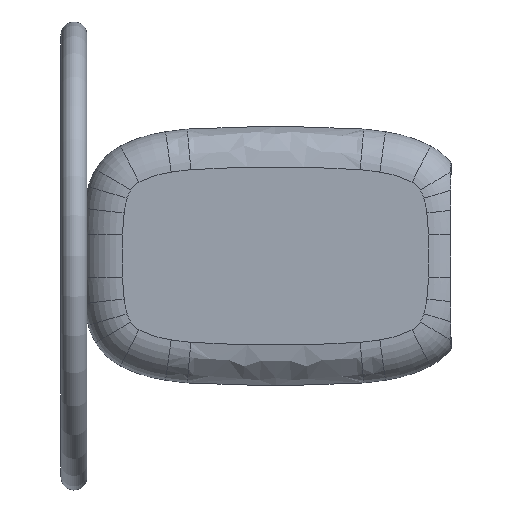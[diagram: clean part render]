
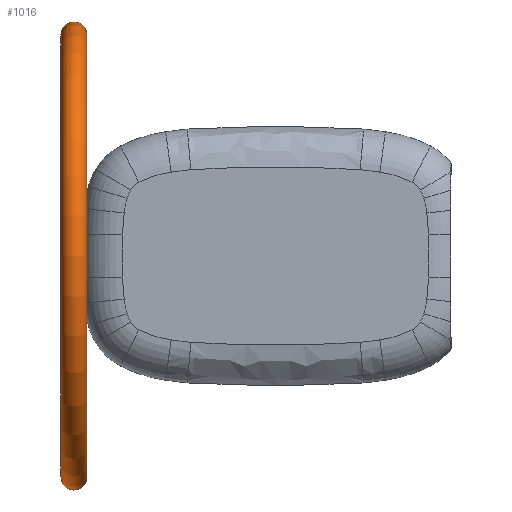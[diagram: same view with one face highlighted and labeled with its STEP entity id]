
A CAD part, left-side view. The second image highlights one B-rep face of the part: STEP entity #1016.
In plain terms, the highlighted toroidal (fillet/blend) face has major radius 255 mm and minor radius 15 mm.
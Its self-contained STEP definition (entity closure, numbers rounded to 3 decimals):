
#185 = CARTESIAN_POINT ( 'NONE',  ( 0., 435., 0. ) ) ;
#250 = CIRCLE ( 'NONE', #3329, 15. ) ;
#502 = CARTESIAN_POINT ( 'NONE',  ( 0., 450., 0. ) ) ;
#601 = ORIENTED_EDGE ( 'NONE', *, *, #1218, .F. ) ;
#631 = CIRCLE ( 'NONE', #2510, 255. ) ;
#869 = CARTESIAN_POINT ( 'NONE',  ( 0., 450., 255. ) ) ;
#910 = CARTESIAN_POINT ( 'NONE',  ( 0., 435., 255. ) ) ;
#1016 = ADVANCED_FACE ( 'NONE', ( #2574 ), #3576, .T. ) ;
#1218 = EDGE_CURVE ( 'NONE', #2736, #3463, #3876, .T. ) ;
#1304 = DIRECTION ( 'NONE',  ( 1., 0., 0. ) ) ;
#1337 = EDGE_CURVE ( 'NONE', #1666, #2736, #3181, .T. ) ;
#1666 = VERTEX_POINT ( 'NONE', #5259 ) ;
#1836 = DIRECTION ( 'NONE',  ( 0., 0., -1. ) ) ;
#1961 = DIRECTION ( 'NONE',  ( 0., 0., 1. ) ) ;
#2276 = DIRECTION ( 'NONE',  ( 0., 0., 1. ) ) ;
#2390 = DIRECTION ( 'NONE',  ( 0., 1., 0. ) ) ;
#2510 = AXIS2_PLACEMENT_3D ( 'NONE', #5666, #3227, #1961 ) ;
#2524 = ORIENTED_EDGE ( 'NONE', *, *, #1337, .F. ) ;
#2574 = FACE_OUTER_BOUND ( 'NONE', #3111, .T. ) ;
#2736 = VERTEX_POINT ( 'NONE', #3820 ) ;
#3015 = ORIENTED_EDGE ( 'NONE', *, *, #3209, .F. ) ;
#3088 = CARTESIAN_POINT ( 'NONE',  ( 0., 420., 255. ) ) ;
#3111 = EDGE_LOOP ( 'NONE', ( #2524, #3015, #4874, #601 ) ) ;
#3136 = DIRECTION ( 'NONE',  ( 0., 1., 0. ) ) ;
#3181 = CIRCLE ( 'NONE', #4663, 15. ) ;
#3209 = EDGE_CURVE ( 'NONE', #3342, #1666, #631, .T. ) ;
#3227 = DIRECTION ( 'NONE',  ( 0., -1., 0. ) ) ;
#3297 = DIRECTION ( 'NONE',  ( -1., 0., 0. ) ) ;
#3329 = AXIS2_PLACEMENT_3D ( 'NONE', #910, #3297, #2276 ) ;
#3342 = VERTEX_POINT ( 'NONE', #3088 ) ;
#3463 = VERTEX_POINT ( 'NONE', #869 ) ;
#3576 = TOROIDAL_SURFACE ( 'NONE', #5543, 255., 15. ) ;
#3657 = CARTESIAN_POINT ( 'NONE',  ( 0., 435., -255. ) ) ;
#3820 = CARTESIAN_POINT ( 'NONE',  ( 0., 450., -255. ) ) ;
#3876 = CIRCLE ( 'NONE', #4948, 255. ) ;
#4002 = DIRECTION ( 'NONE',  ( 0., 0., 1. ) ) ;
#4276 = DIRECTION ( 'NONE',  ( 0., 0., 1. ) ) ;
#4663 = AXIS2_PLACEMENT_3D ( 'NONE', #3657, #1304, #1836 ) ;
#4874 = ORIENTED_EDGE ( 'NONE', *, *, #5065, .T. ) ;
#4948 = AXIS2_PLACEMENT_3D ( 'NONE', #502, #2390, #4276 ) ;
#5065 = EDGE_CURVE ( 'NONE', #3342, #3463, #250, .T. ) ;
#5259 = CARTESIAN_POINT ( 'NONE',  ( 0., 420., -255. ) ) ;
#5543 = AXIS2_PLACEMENT_3D ( 'NONE', #185, #3136, #4002 ) ;
#5666 = CARTESIAN_POINT ( 'NONE',  ( 0., 420., 0. ) ) ;
